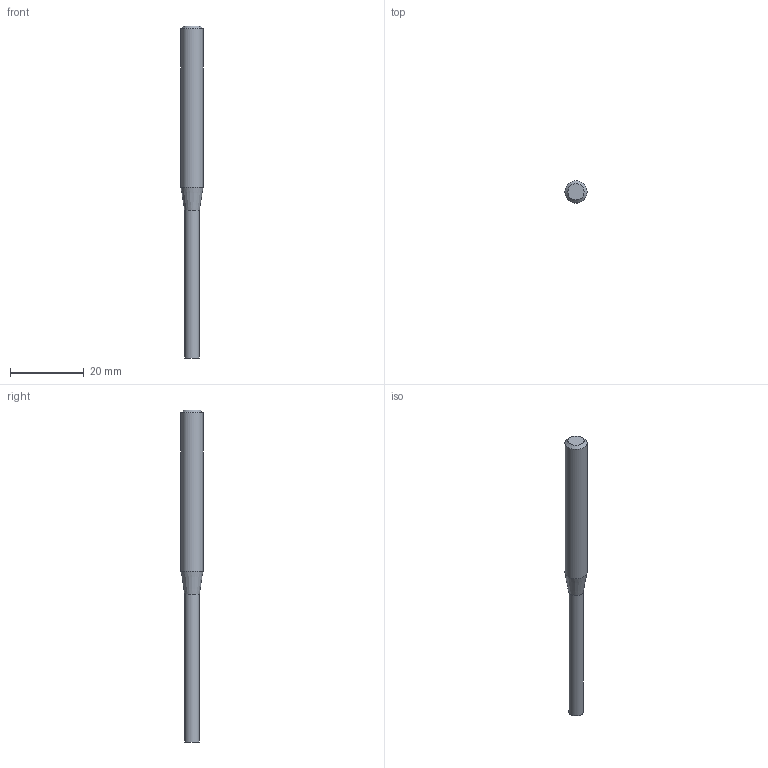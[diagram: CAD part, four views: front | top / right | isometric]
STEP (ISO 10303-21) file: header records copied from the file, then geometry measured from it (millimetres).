
FILE_DESCRIPTION((''),'2;1');
FILE_NAME('C:\Users\nsx150\Desktop\RSE230_20210427\01-00644-04005 RSE230 D4X40.step','2021-05-07T14:54:11',(''),(''),'STEP Write','Mastercam 2021 ... CNC Software, Inc.','');
FILE_SCHEMA(('AUTOMOTIVE_DESIGN'));
Length unit declared in the file: millimetre
Products named in the file (1): None
Bounding box: 6 x 6 x 90 mm (x, y, z)
Volume: 1858 mm3; surface area: 1482.8 mm2
Topology: 2 solids, 2 shells, 8 faces, 10 edges, 6 vertices
Faces by surface type: plane 4, cylinder 2, cone 2
Full cylindrical faces by diameter (mm): 4 x1, 6 x1
Entity records: 190 total; most frequent: DIRECTION 32, CARTESIAN_POINT 22, AXIS2_PLACEMENT_3D 16, ORIENTED_EDGE 12, EDGE_LOOP 12, STYLED_ITEM 11, ADVANCED_FACE 8, VERTEX_POINT 6
